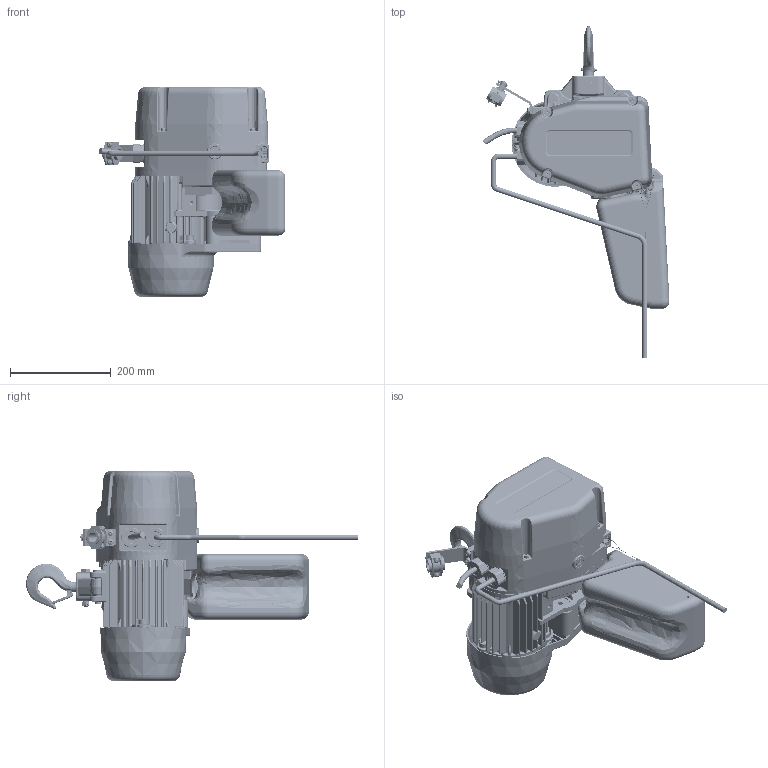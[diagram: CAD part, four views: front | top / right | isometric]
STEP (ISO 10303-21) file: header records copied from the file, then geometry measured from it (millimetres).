
FILE_DESCRIPTION (( 'STEP AP214' ), '1' );
FILE_NAME ('EQ001.STEP', '2024-10-17T11:32:41', ( '' ), ( '' ), 'SwSTEP 2.0', 'SolidWorks 2024', '' );
FILE_SCHEMA (( 'AUTOMOTIVE_DESIGN' ));
Length unit declared in the file: millimetre
Products named in the file (45): stop(ECH)-X__500_ﾃﾞﾌｫﾙﾄ; ER1CS9032; EQ1CI9110_コネクター引っかかり対策; EQ1CI2104_ﾃﾞﾌｫﾙﾄ; EQ1CI9107_ﾃﾞﾌｫﾙﾄ; E2YS005-9109; ECP5924AQ1_ﾃﾞﾌｫﾙﾄ; chain backet2011018_ﾃﾞﾌｫﾙﾄ; EQ1CI9401_ﾃﾞﾌｫﾙﾄ; J1PW01-025018_J1PW01-025018; J1WH012-10050_J1WH012-10050; Push bottan_ﾃﾞﾌｫﾙﾄ; ECP5924AB1-0-X_ﾃﾞﾌｫﾙﾄ; E5FE003S9111; ER2CS90011-æfì▐-Æbæó_鋳造; C2BA100-90741_ISO 7040-M8-N; E3ES002-95412-2-HSM_ﾃﾞﾌｫﾙﾄ; J1NL001-10100_J1NL001-10100; E4YS005-98222-0-HSM_ﾃﾞﾌｫﾙﾄ; N6TA100E91251-0_ﾃﾞﾌｫﾙﾄ; E4YS005-28223-0-HSM_ﾃﾞﾌｫﾙﾄ; EQ001; 9012708_9012708; 9091227_c; ER1BS9135; ECP5924AD1-0-X_ﾃﾞﾌｫﾙﾄ; J1AP26001616_B18.6.7M - M6 x 1.0 x 16 Type I Cross Recessed PHMS --16N; J1BG10601010_M6X10X10; ECP5924AA1-0-X_ﾃﾞﾌｫﾙﾄ; ER1BS9003; EQ1CI90281_1°; ECP6912AA1-1-X_ﾃﾞﾌｫﾙﾄ; EQ1CI9121; ISO 1234-1.6x8-C_ISO 1234-1.6x8-C; J1BE1-0809028_B18.3.1M - 8 x 1.25 x 90 Hex SHCS -- 28CHX; C2BA005-90744; ER1BS95412_ﾃﾞﾌｫﾙﾄ; Pwer suply cable(ECH)-X_ﾃﾞﾌｫﾙﾄ; ER2CS90021-0_ﾃﾞﾌｫﾙﾄ; CableHolder-X_ﾃﾞﾌｫﾙﾄ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
Assembly tree (64 placements, depth 3):
  EQ001
    body500kg-2012-0903_コネクター引っかかり対策
    CableHolder-X_ﾃﾞﾌｫﾙﾄ  x2
      ECP5924AB1-0-X_ﾃﾞﾌｫﾙﾄ
      ECP5924AQ1_ﾃﾞﾌｫﾙﾄ
      ECP5924AA1-0-X_ﾃﾞﾌｫﾙﾄ
      ECP5924AD1-0-X_ﾃﾞﾌｫﾙﾄ
      ECP6912AA1-1-X_ﾃﾞﾌｫﾙﾄ
    EQ1CI9110_コネクター引っかかり対策
    Pwer suply cable(ECH)-X_ﾃﾞﾌｫﾙﾄ
    Push bottan_ﾃﾞﾌｫﾙﾄ
      code (ECH)-X__500_ﾃﾞﾌｫﾙﾄ
      stop(ECH)-X__500_ﾃﾞﾌｫﾙﾄ
    EQ1CI9107_ﾃﾞﾌｫﾙﾄ
    EQ1CI2104_ﾃﾞﾌｫﾙﾄ
    chain backet2011018_ﾃﾞﾌｫﾙﾄ
      EQ1CI9401_ﾃﾞﾌｫﾙﾄ
    ER1BS95412_ﾃﾞﾌｫﾙﾄ
    E4YS005-28223-0-HSM_ﾃﾞﾌｫﾙﾄ
      E4YS005-98222-0-HSM_ﾃﾞﾌｫﾙﾄ
      E3ES002-95412-2-HSM_ﾃﾞﾌｫﾙﾄ
      9012708_9012708  x2
      N6TA100E91251-0_ﾃﾞﾌｫﾙﾄ
      J1AA4-5002020_J1AA4-5002020  x2
      ISO 1234-1.6x8-C_ISO 1234-1.6x8-C
    EQ1CI1013_ウエフック向き変更
      EQ1CI90281_1°
      ER2CS90011-æfì▐-Æbæó_鋳造
      ER2CS90021-0_ﾃﾞﾌｫﾙﾄ
      ER1CS9032
      J1NL001-10100_J1NL001-10100
      ER1BS9003
      C2BA005-90744
      J1PW01-025018_J1PW01-025018
    J1WH012-10050_J1WH012-10050  x8
    9091227_c  x8
    E2YS005-9116
    ER1BS9135
    E2YS005-9109
    E5FE003S9111
    EQ1CI9121  x2
    J1BE1-0809028_B18.3.1M - 8 x 1.25 x 90 Hex SHCS -- 28CHX
    C2BA100-90741_ISO 7040-M8-N
    J1BG10601010_M6X10X10  x2
    J1AP26001616_B18.6.7M - M6 x 1.0 x 16 Type I Cross Recessed PHMS --16N  x2
Bounding box: 370.69 x 658.58 x 417 mm (x, y, z)
Volume: 4005010.9 mm3; surface area: 1636030.5 mm2
Topology: 64 solids, 64 shells, 7697 faces, 19081 edges, 11435 vertices
Faces by surface type: plane 2258, cylinder 2166, bspline 1422, cone 951, torus 546, sphere 354
Entity records: 271158 total; most frequent: CARTESIAN_POINT 118475, ORIENTED_EDGE 33688, DIRECTION 29827, EDGE_CURVE 16844, AXIS2_PLACEMENT_3D 11759, VERTEX_POINT 10188, EDGE_LOOP 7330, ADVANCED_FACE 6939
